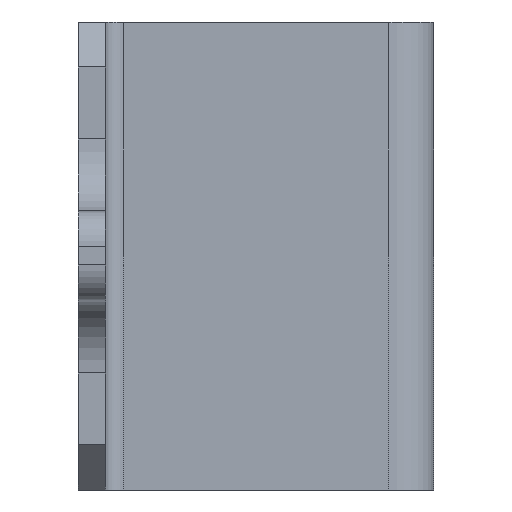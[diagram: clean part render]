
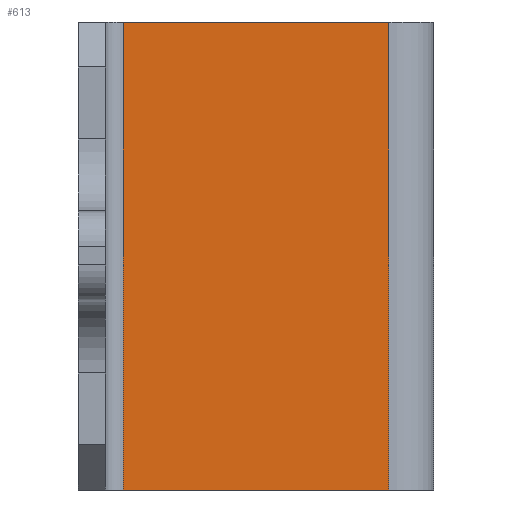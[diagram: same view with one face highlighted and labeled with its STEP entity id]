
A CAD part, front view. The second image highlights one B-rep face of the part: STEP entity #613.
In plain terms, the highlighted planar face has unit normal (0, -1, 0).
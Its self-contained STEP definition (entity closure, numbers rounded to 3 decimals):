
#23 = DIRECTION ( 'NONE',  ( 0., 0., -1. ) ) ;
#37 = VERTEX_POINT ( 'NONE', #545 ) ;
#57 = FACE_OUTER_BOUND ( 'NONE', #814, .T. ) ;
#77 = VECTOR ( 'NONE', #246, 1000. ) ;
#102 = VERTEX_POINT ( 'NONE', #234 ) ;
#169 = CARTESIAN_POINT ( 'NONE',  ( -1., -1.5, 13. ) ) ;
#218 = EDGE_CURVE ( 'NONE', #503, #37, #737, .T. ) ;
#234 = CARTESIAN_POINT ( 'NONE',  ( -15.75, -1.5, -13. ) ) ;
#246 = DIRECTION ( 'NONE',  ( 0., 0., -1. ) ) ;
#252 = CARTESIAN_POINT ( 'NONE',  ( 0., -1.5, 13. ) ) ;
#275 = VECTOR ( 'NONE', #871, 1000. ) ;
#335 = LINE ( 'NONE', #915, #77 ) ;
#387 = ORIENTED_EDGE ( 'NONE', *, *, #218, .T. ) ;
#405 = LINE ( 'NONE', #868, #275 ) ;
#433 = EDGE_CURVE ( 'NONE', #37, #102, #1070, .T. ) ;
#488 = AXIS2_PLACEMENT_3D ( 'NONE', #252, #882, #1118 ) ;
#496 = VECTOR ( 'NONE', #657, 1000. ) ;
#503 = VERTEX_POINT ( 'NONE', #169 ) ;
#532 = VERTEX_POINT ( 'NONE', #884 ) ;
#545 = CARTESIAN_POINT ( 'NONE',  ( -15.75, -1.5, 13. ) ) ;
#613 = ADVANCED_FACE ( 'NONE', ( #57 ), #1106, .T. ) ;
#636 = CARTESIAN_POINT ( 'NONE',  ( 0., -1.5, 13. ) ) ;
#657 = DIRECTION ( 'NONE',  ( -1., 0., 0. ) ) ;
#710 = ORIENTED_EDGE ( 'NONE', *, *, #952, .F. ) ;
#737 = LINE ( 'NONE', #636, #496 ) ;
#743 = EDGE_CURVE ( 'NONE', #503, #532, #335, .T. ) ;
#814 = EDGE_LOOP ( 'NONE', ( #710, #850, #387, #881 ) ) ;
#850 = ORIENTED_EDGE ( 'NONE', *, *, #743, .F. ) ;
#868 = CARTESIAN_POINT ( 'NONE',  ( 0., -1.5, -13. ) ) ;
#871 = DIRECTION ( 'NONE',  ( -1., 0., 0. ) ) ;
#881 = ORIENTED_EDGE ( 'NONE', *, *, #433, .T. ) ;
#882 = DIRECTION ( 'NONE',  ( 0., -1., 0. ) ) ;
#884 = CARTESIAN_POINT ( 'NONE',  ( -1., -1.5, -13. ) ) ;
#915 = CARTESIAN_POINT ( 'NONE',  ( -1., -1.5, 13. ) ) ;
#919 = VECTOR ( 'NONE', #23, 1000. ) ;
#929 = CARTESIAN_POINT ( 'NONE',  ( -15.75, -1.5, 13. ) ) ;
#952 = EDGE_CURVE ( 'NONE', #532, #102, #405, .T. ) ;
#1070 = LINE ( 'NONE', #929, #919 ) ;
#1106 = PLANE ( 'NONE',  #488 ) ;
#1118 = DIRECTION ( 'NONE',  ( 1., 0., 0. ) ) ;
